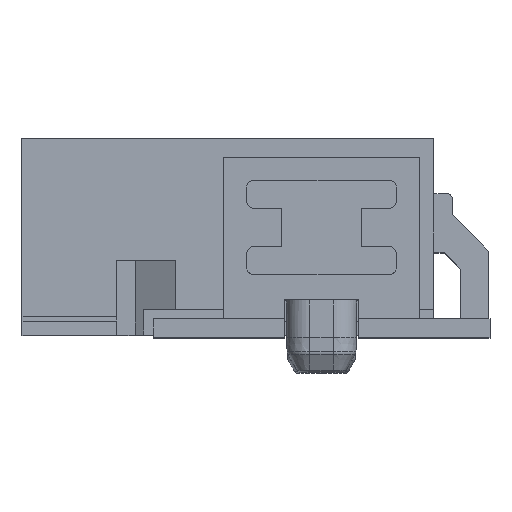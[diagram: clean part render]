
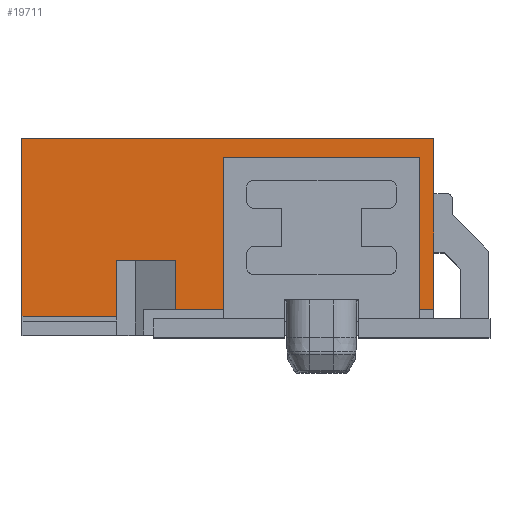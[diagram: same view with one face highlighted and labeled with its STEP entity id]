
A CAD part, top view. The second image highlights one B-rep face of the part: STEP entity #19711.
In plain terms, the highlighted planar face has unit normal (0, 0, 1).
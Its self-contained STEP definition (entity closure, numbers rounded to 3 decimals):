
#165 = VERTEX_POINT ( 'NONE', #6084 ) ;
#481 = LINE ( 'NONE', #6518, #14593 ) ;
#593 = VECTOR ( 'NONE', #18306, 1000. ) ;
#905 = ORIENTED_EDGE ( 'NONE', *, *, #11256, .F. ) ;
#948 = DIRECTION ( 'NONE',  ( 0., 1., 0. ) ) ;
#1023 = CARTESIAN_POINT ( 'NONE',  ( -0.7, -1.55, 5.185 ) ) ;
#1078 = LINE ( 'NONE', #1023, #5395 ) ;
#1168 = CARTESIAN_POINT ( 'NONE',  ( 3.5, 1.7, 5.185 ) ) ;
#1500 = LINE ( 'NONE', #15939, #15652 ) ;
#1779 = LINE ( 'NONE', #13239, #15925 ) ;
#1842 = CARTESIAN_POINT ( 'NONE',  ( -1.714, -0.5, 5.185 ) ) ;
#2151 = CARTESIAN_POINT ( 'NONE',  ( -5., -1.7, 5.185 ) ) ;
#2276 = LINE ( 'NONE', #15872, #11537 ) ;
#2482 = DIRECTION ( 'NONE',  ( -1., 0., 0. ) ) ;
#2783 = CARTESIAN_POINT ( 'NONE',  ( 3.8, 2.1, 5.185 ) ) ;
#3224 = ORIENTED_EDGE ( 'NONE', *, *, #6956, .F. ) ;
#3366 = VERTEX_POINT ( 'NONE', #18689 ) ;
#3449 = ORIENTED_EDGE ( 'NONE', *, *, #17835, .F. ) ;
#3654 = DIRECTION ( 'NONE',  ( -1., 0., 0. ) ) ;
#4112 = VERTEX_POINT ( 'NONE', #14452 ) ;
#4235 = VERTEX_POINT ( 'NONE', #4240 ) ;
#4240 = CARTESIAN_POINT ( 'NONE',  ( 3.8, 2.1, 5.185 ) ) ;
#4620 = EDGE_CURVE ( 'NONE', #9185, #3366, #1779, .T. ) ;
#4694 = DIRECTION ( 'NONE',  ( 0., -1., 0. ) ) ;
#4835 = FACE_OUTER_BOUND ( 'NONE', #20421, .T. ) ;
#5370 = LINE ( 'NONE', #19282, #19492 ) ;
#5395 = VECTOR ( 'NONE', #2482, 1000. ) ;
#5430 = LINE ( 'NONE', #6161, #9749 ) ;
#6084 = CARTESIAN_POINT ( 'NONE',  ( -0.7, -1.55, 5.185 ) ) ;
#6161 = CARTESIAN_POINT ( 'NONE',  ( 3.8, -1.55, 5.185 ) ) ;
#6469 = CARTESIAN_POINT ( 'NONE',  ( 3.8, -1.55, 5.185 ) ) ;
#6518 = CARTESIAN_POINT ( 'NONE',  ( 3.8, 2.1, 5.185 ) ) ;
#6956 = EDGE_CURVE ( 'NONE', #4235, #13132, #481, .T. ) ;
#7303 = ORIENTED_EDGE ( 'NONE', *, *, #17615, .T. ) ;
#7315 = CARTESIAN_POINT ( 'NONE',  ( 3.5, 1.6, 5.185 ) ) ;
#7739 = CARTESIAN_POINT ( 'NONE',  ( 3.5, -1.55, 5.185 ) ) ;
#7960 = CARTESIAN_POINT ( 'NONE',  ( 3.8, 2.1, 5.185 ) ) ;
#8269 = DIRECTION ( 'NONE',  ( -1., 0., 0. ) ) ;
#9185 = VERTEX_POINT ( 'NONE', #15125 ) ;
#9749 = VECTOR ( 'NONE', #20888, 1000. ) ;
#10020 = EDGE_CURVE ( 'NONE', #165, #4112, #1078, .T. ) ;
#10108 = DIRECTION ( 'NONE',  ( -1., 0., 0. ) ) ;
#10392 = EDGE_CURVE ( 'NONE', #23232, #9185, #23782, .T. ) ;
#10529 = DIRECTION ( 'NONE',  ( 0., -1., 0. ) ) ;
#10627 = DIRECTION ( 'NONE',  ( 0., -1., 0. ) ) ;
#10744 = CARTESIAN_POINT ( 'NONE',  ( -0.7, 1.7, 5.185 ) ) ;
#10967 = LINE ( 'NONE', #7315, #593 ) ;
#11256 = EDGE_CURVE ( 'NONE', #16691, #165, #20300, .T. ) ;
#11422 = DIRECTION ( 'NONE',  ( 0., -1., 0. ) ) ;
#11537 = VECTOR ( 'NONE', #11422, 1000. ) ;
#11669 = DIRECTION ( 'NONE',  ( -1., 0., 0. ) ) ;
#11820 = EDGE_CURVE ( 'NONE', #3366, #12420, #1500, .T. ) ;
#11965 = ORIENTED_EDGE ( 'NONE', *, *, #10020, .F. ) ;
#12420 = VERTEX_POINT ( 'NONE', #2151 ) ;
#12494 = AXIS2_PLACEMENT_3D ( 'NONE', #2783, #13859, #948 ) ;
#13132 = VERTEX_POINT ( 'NONE', #6469 ) ;
#13239 = CARTESIAN_POINT ( 'NONE',  ( -2.98, -0.5, 5.185 ) ) ;
#13441 = LINE ( 'NONE', #20499, #18290 ) ;
#13811 = ORIENTED_EDGE ( 'NONE', *, *, #10392, .F. ) ;
#13859 = DIRECTION ( 'NONE',  ( 0., 0., -1. ) ) ;
#14104 = LINE ( 'NONE', #7960, #18993 ) ;
#14452 = CARTESIAN_POINT ( 'NONE',  ( -1.714, -1.55, 5.185 ) ) ;
#14593 = VECTOR ( 'NONE', #10529, 1000. ) ;
#15125 = CARTESIAN_POINT ( 'NONE',  ( -2.98, -0.5, 5.185 ) ) ;
#15652 = VECTOR ( 'NONE', #10108, 1000. ) ;
#15802 = EDGE_CURVE ( 'NONE', #22519, #16691, #5370, .T. ) ;
#15872 = CARTESIAN_POINT ( 'NONE',  ( -1.714, -0.5, 5.185 ) ) ;
#15925 = VECTOR ( 'NONE', #4694, 1000. ) ;
#15939 = CARTESIAN_POINT ( 'NONE',  ( -5., -1.7, 5.185 ) ) ;
#16232 = CARTESIAN_POINT ( 'NONE',  ( -1.714, -0.5, 5.185 ) ) ;
#16576 = ORIENTED_EDGE ( 'NONE', *, *, #23017, .T. ) ;
#16633 = VERTEX_POINT ( 'NONE', #18913 ) ;
#16691 = VERTEX_POINT ( 'NONE', #10744 ) ;
#17615 = EDGE_CURVE ( 'NONE', #23232, #4112, #2276, .T. ) ;
#17692 = ORIENTED_EDGE ( 'NONE', *, *, #11820, .F. ) ;
#17790 = ORIENTED_EDGE ( 'NONE', *, *, #4620, .F. ) ;
#17835 = EDGE_CURVE ( 'NONE', #13132, #19881, #5430, .T. ) ;
#18290 = VECTOR ( 'NONE', #22269, 1000. ) ;
#18306 = DIRECTION ( 'NONE',  ( 0., -1., 0. ) ) ;
#18400 = ORIENTED_EDGE ( 'NONE', *, *, #22805, .T. ) ;
#18689 = CARTESIAN_POINT ( 'NONE',  ( -2.98, -1.7, 5.185 ) ) ;
#18893 = VECTOR ( 'NONE', #3654, 1000. ) ;
#18913 = CARTESIAN_POINT ( 'NONE',  ( -5., 2.1, 5.185 ) ) ;
#18993 = VECTOR ( 'NONE', #11669, 1000. ) ;
#19282 = CARTESIAN_POINT ( 'NONE',  ( 1.4, 1.7, 5.185 ) ) ;
#19492 = VECTOR ( 'NONE', #8269, 1000. ) ;
#19711 = ADVANCED_FACE ( 'NONE', ( #4835 ), #21246, .F. ) ;
#19881 = VERTEX_POINT ( 'NONE', #7739 ) ;
#20300 = LINE ( 'NONE', #21643, #22894 ) ;
#20421 = EDGE_LOOP ( 'NONE', ( #905, #22244, #18400, #3449, #3224, #16576, #22677, #17692, #17790, #13811, #7303, #11965 ) ) ;
#20499 = CARTESIAN_POINT ( 'NONE',  ( -5., 2.1, 5.185 ) ) ;
#20888 = DIRECTION ( 'NONE',  ( -1., 0., 0. ) ) ;
#21145 = EDGE_CURVE ( 'NONE', #16633, #12420, #13441, .T. ) ;
#21246 = PLANE ( 'NONE',  #12494 ) ;
#21643 = CARTESIAN_POINT ( 'NONE',  ( -0.7, -2.15, 5.185 ) ) ;
#22244 = ORIENTED_EDGE ( 'NONE', *, *, #15802, .F. ) ;
#22269 = DIRECTION ( 'NONE',  ( 0., -1., 0. ) ) ;
#22519 = VERTEX_POINT ( 'NONE', #1168 ) ;
#22677 = ORIENTED_EDGE ( 'NONE', *, *, #21145, .T. ) ;
#22805 = EDGE_CURVE ( 'NONE', #22519, #19881, #10967, .T. ) ;
#22894 = VECTOR ( 'NONE', #10627, 1000. ) ;
#23017 = EDGE_CURVE ( 'NONE', #4235, #16633, #14104, .T. ) ;
#23232 = VERTEX_POINT ( 'NONE', #16232 ) ;
#23782 = LINE ( 'NONE', #1842, #18893 ) ;
